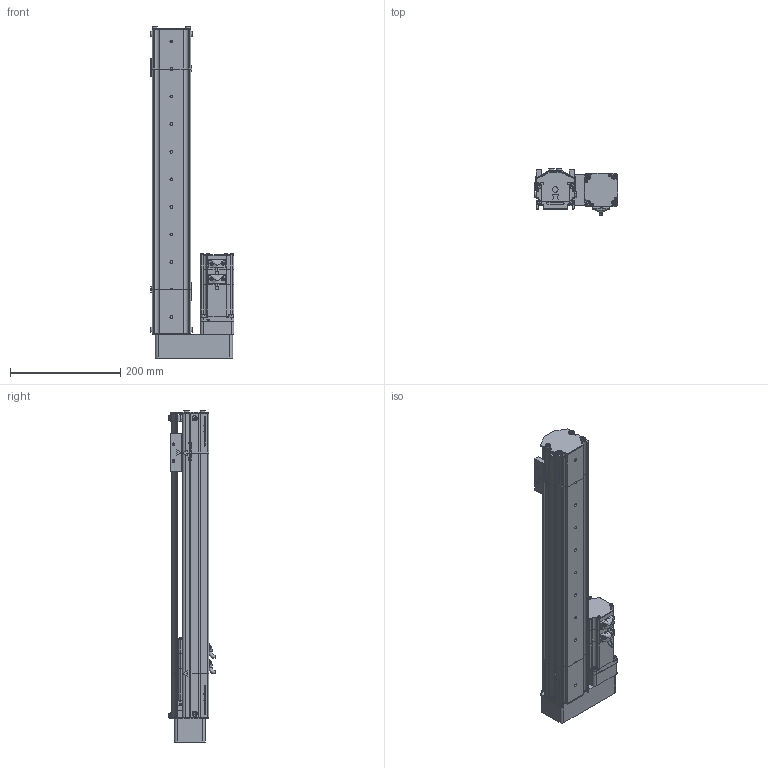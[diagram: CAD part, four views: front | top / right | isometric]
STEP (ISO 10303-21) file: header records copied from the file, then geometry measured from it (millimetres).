
FILE_DESCRIPTION (( 'STEP AP214' ), '1' );
FILE_NAME ('S07 TS BR S400.STEP', '2010-06-29T11:09:54', ( 'Conseil Régional Haute-Normandie' ), ( 'Conseil Régional Haute-Normandie' ), 'SwSTEP 2.0', 'SolidWorks 2010', '' );
FILE_SCHEMA (( 'AUTOMOTIVE_DESIGN' ));
Length unit declared in the file: millimetre
Products named in the file (35): S07 tail (78)_Default; P4_Default; GMB 60 90 310_Default; Plaque racord_Default; plaque de bout BR_Default; arbre S07 moteur; vis M5 L5_Default; vis M5 L12_Default; couvercle moteur S07 BR(124); corp moteur BR(124)_Default; rail S07 moteur; S07 BR(124)_Default; Chariot; plaque de bout_Default; P1_Default; T皻e d''axe bas_Default; Arbre+rail tail78; vis M5 L16_Default; couvercle S07 (78); guide; chariot_Default; P2 90A_Default; P3 90A_Default; VisM3_Default; Course 400_Default; S07 TS BR S400; Axe 60BLDC_Default; corp couvert coupé_Default; T皻e d''axe Haut 2_Default; Conecteur 60BLDC_Default; arbre + rail Course 400 ; couvercle S07 course 400 ; Vis M5 L16-2_Default; Conecteur2 60BLDC_Default; Corp S07 course 400_Default
Assembly tree (61 placements, depth 4):
  S07 TS BR S400
    Course 400_Default
      couvercle S07 course 400 
      Corp S07 course 400_Default
      arbre + rail Course 400 
    S07 BR(124)_Default
      couvercle moteur S07 BR(124)
      vis M5 L12_Default  x2
      corp moteur BR(124)_Default
      Vis M5 L16-2_Default  x4
      vis M5 L5_Default  x2
      plaque de bout BR_Default
      arbre S07 moteur
      rail S07 moteur
      GMB 60 90 310_Default
        VisM3_Default  x12
        Conecteur 60BLDC_Default
        P3 90A_Default
        P4_Default
        P2 90A_Default
        P1_Default
        Conecteur2 60BLDC_Default
        Axe 60BLDC_Default
      Plaque racord_Default
    chariot_Default
      guide
      vis M5 L12_Default  x2
      Chariot
    S07 tail (78)_Default
      corp couvert coupé_Default
      vis M5 L16_Default  x2
      vis M5 L12_Default  x8
      T皻e d''axe bas_Default
      T皻e d''axe Haut 2_Default
      Arbre+rail tail78
      couvercle S07 (78)
      plaque de bout_Default
Bounding box: 152.2 x 83.7 x 602 mm (x, y, z)
Volume: 1724992.8 mm3; surface area: 566248.4 mm2
Topology: 82 solids, 82 shells, 3344 faces, 8436 edges, 5479 vertices
Faces by surface type: plane 1897, bspline 677, cylinder 585, torus 96, cone 89
Entity records: 157996 total; most frequent: CARTESIAN_POINT 73539, ORIENTED_EDGE 14128, DIRECTION 10855, EDGE_CURVE 7064, VERTEX_POINT 4669, VECTOR 4649, LINE 4649, AXIS2_PLACEMENT_3D 3103
